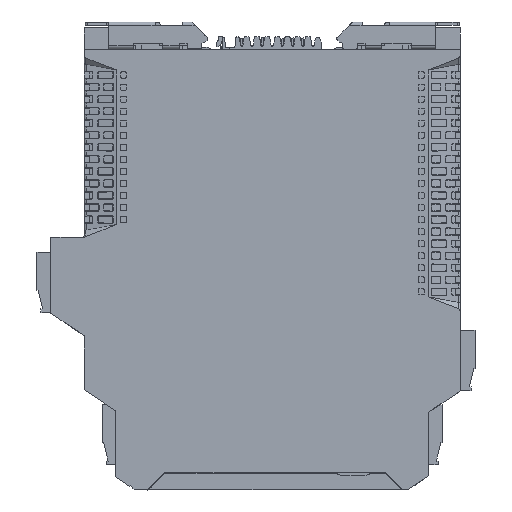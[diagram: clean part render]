
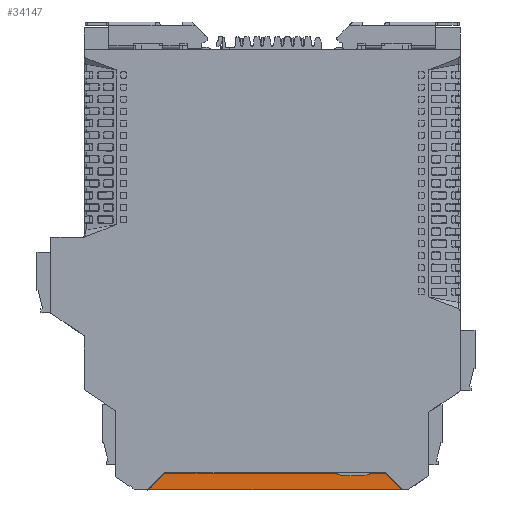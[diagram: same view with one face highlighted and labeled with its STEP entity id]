
A CAD part, front view. The second image highlights one B-rep face of the part: STEP entity #34147.
In plain terms, the highlighted planar face has unit normal (0, -1, -0.009).
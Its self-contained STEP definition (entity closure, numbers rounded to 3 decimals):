
#28938=CARTESIAN_POINT('',(83.309,-0.16,-110.321));
#28939=VERTEX_POINT('',#28938);
#28946=CARTESIAN_POINT('',(87.08,-0.127,-114.092));
#28947=VERTEX_POINT('',#28946);
#28948=CARTESIAN_POINT('',(83.309,-0.16,-110.321));
#28949=DIRECTION('',(0.707,0.006,-0.707));
#28950=VECTOR('',#28949,5.333);
#28951=LINE('',#28948,#28950);
#28952=EDGE_CURVE('',#28939,#28947,#28951,.T.);
#28985=CARTESIAN_POINT('',(79.309,-0.16,-110.321));
#28986=VERTEX_POINT('',#28985);
#28993=CARTESIAN_POINT('',(79.309,-0.16,-110.321));
#28994=DIRECTION('',(1.0,0.0,0.0));
#28995=VECTOR('',#28994,4.);
#28996=LINE('',#28993,#28995);
#28997=EDGE_CURVE('',#28986,#28939,#28996,.T.);
#29009=CARTESIAN_POINT('',(71.309,-0.16,-110.321));
#29010=VERTEX_POINT('',#29009);
#29025=CARTESIAN_POINT('',(28.429,-0.16,-110.321));
#29026=VERTEX_POINT('',#29025);
#29033=CARTESIAN_POINT('',(28.429,-0.16,-110.321));
#29034=DIRECTION('',(1.0,0.0,0.0));
#29035=VECTOR('',#29034,42.88);
#29036=LINE('',#29033,#29035);
#29037=EDGE_CURVE('',#29026,#29010,#29036,.T.);
#29144=CARTESIAN_POINT('',(24.702,-0.127,-114.049));
#29145=VERTEX_POINT('',#29144);
#29152=CARTESIAN_POINT('',(24.702,-0.127,-114.049));
#29153=DIRECTION('',(0.707,-0.006,0.707));
#29154=VECTOR('',#29153,5.272);
#29155=LINE('',#29152,#29154);
#29156=EDGE_CURVE('',#29145,#29026,#29155,.T.);
#29190=CARTESIAN_POINT('',(24.644,-0.126,-114.176));
#29191=VERTEX_POINT('',#29190);
#29198=CARTESIAN_POINT('',(24.843,-0.126,-114.19));
#29199=DIRECTION('',(0.,1.,0.009));
#29200=DIRECTION('',(-0.707,-0.006,0.707));
#29201=AXIS2_PLACEMENT_3D('',#29198,#29199,#29200);
#29202=CIRCLE('',#29201,0.2);
#29203=EDGE_CURVE('',#29191,#29145,#29202,.T.);
#29222=CARTESIAN_POINT('',(24.619,-0.123,-114.521));
#29223=VERTEX_POINT('',#29222);
#29230=CARTESIAN_POINT('',(24.644,-0.126,-114.176));
#29231=DIRECTION('',(-0.07,0.009,-0.998));
#29232=VECTOR('',#29231,0.346);
#29233=LINE('',#29230,#29232);
#29234=EDGE_CURVE('',#29191,#29223,#29233,.T.);
#33700=CARTESIAN_POINT('',(87.08,-0.123,-114.521));
#33701=VERTEX_POINT('',#33700);
#33708=CARTESIAN_POINT('',(87.08,-0.123,-114.521));
#33709=DIRECTION('',(-1.0,0.0,0.0));
#33710=VECTOR('',#33709,62.46);
#33711=LINE('',#33708,#33710);
#33712=EDGE_CURVE('',#33701,#29223,#33711,.T.);
#34104=CARTESIAN_POINT('',(23.783,-0.16,-110.321));
#34105=DIRECTION('',(0.0,1.,0.009));
#34106=DIRECTION('',(0.0,-0.009,1.));
#34107=AXIS2_PLACEMENT_3D('',#34104,#34105,#34106);
#34108=PLANE('',#34107);
#34109=ORIENTED_EDGE('',*,*,#29234,.T.);
#34110=ORIENTED_EDGE('',*,*,#33712,.F.);
#34111=CARTESIAN_POINT('',(87.08,-0.127,-114.092));
#34112=DIRECTION('',(0.0,0.009,-1.));
#34113=VECTOR('',#34112,0.429);
#34114=LINE('',#34111,#34113);
#34115=EDGE_CURVE('',#28947,#33701,#34114,.T.);
#34116=ORIENTED_EDGE('',*,*,#34115,.F.);
#34117=ORIENTED_EDGE('',*,*,#28952,.F.);
#34118=ORIENTED_EDGE('',*,*,#28997,.F.);
#34119=CARTESIAN_POINT('',(79.309,-0.157,-110.721));
#34120=VERTEX_POINT('',#34119);
#34121=CARTESIAN_POINT('',(79.309,-0.157,-110.721));
#34122=DIRECTION('',(0.0,-0.009,1.));
#34123=VECTOR('',#34122,0.4);
#34124=LINE('',#34121,#34123);
#34125=EDGE_CURVE('',#34120,#28986,#34124,.T.);
#34126=ORIENTED_EDGE('',*,*,#34125,.F.);
#34127=CARTESIAN_POINT('',(71.309,-0.157,-110.721));
#34128=VERTEX_POINT('',#34127);
#34129=CARTESIAN_POINT('',(75.309,-0.388,-84.207));
#34130=DIRECTION('',(0.,-1.,-0.009));
#34131=DIRECTION('',(0.149,0.009,-0.989));
#34132=AXIS2_PLACEMENT_3D('',#34129,#34130,#34131);
#34133=CIRCLE('',#34132,26.816);
#34134=EDGE_CURVE('',#34128,#34120,#34133,.T.);
#34135=ORIENTED_EDGE('',*,*,#34134,.F.);
#34136=CARTESIAN_POINT('',(71.309,-0.16,-110.321));
#34137=DIRECTION('',(0.0,0.009,-1.));
#34138=VECTOR('',#34137,0.4);
#34139=LINE('',#34136,#34138);
#34140=EDGE_CURVE('',#29010,#34128,#34139,.T.);
#34141=ORIENTED_EDGE('',*,*,#34140,.F.);
#34142=ORIENTED_EDGE('',*,*,#29037,.F.);
#34143=ORIENTED_EDGE('',*,*,#29156,.F.);
#34144=ORIENTED_EDGE('',*,*,#29203,.F.);
#34145=EDGE_LOOP('',(#34109,#34110,#34116,#34117,#34118,#34126,#34135,#34141,#34142,#34143,#34144));
#34146=FACE_OUTER_BOUND('',#34145,.T.);
#34147=ADVANCED_FACE('',(#34146),#34108,.F.);
